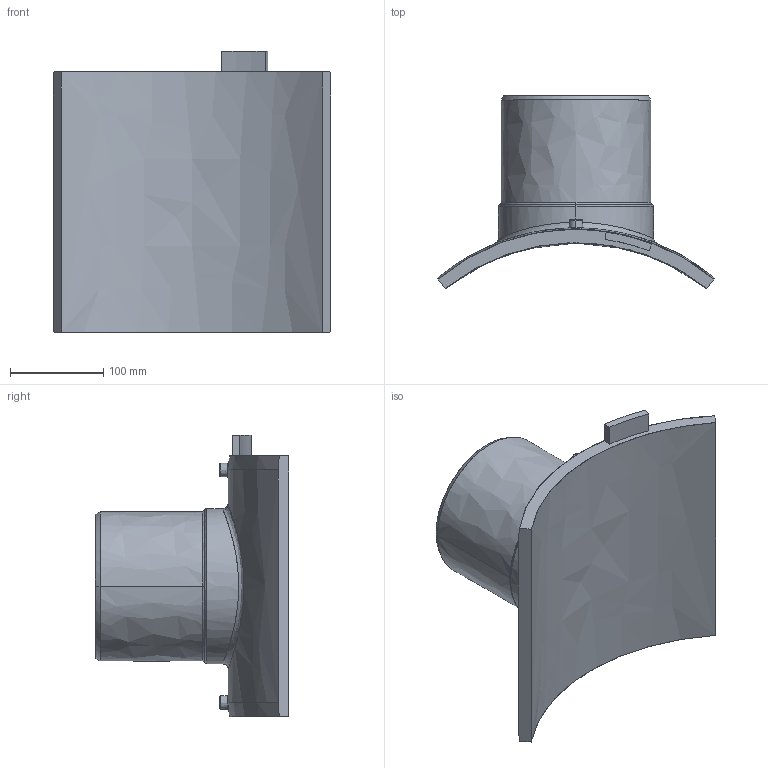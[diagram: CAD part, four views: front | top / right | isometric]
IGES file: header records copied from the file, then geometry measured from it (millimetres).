
Start section:  PTC IGES file: sa-uni_d450_160_01.igs
Global section: file name: sa-uni_d450_160_01.igs; native system: Pro/ENGINEER by Parametric Technology Corporation; preprocessor: 2011490; author: MikulicP; organization: Unknown; date: 20170207.095325; units: millimetre
Bounding box: 297 x 206.71 x 301 mm (x, y, z)
Surface area: 336806.2 mm2 (no closed solid volume)
Topology: 0 solids, 0 shells, 202 faces, 994 edges, 992 vertices
Faces by surface type: bspline 202
